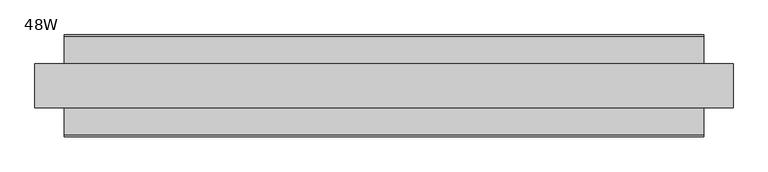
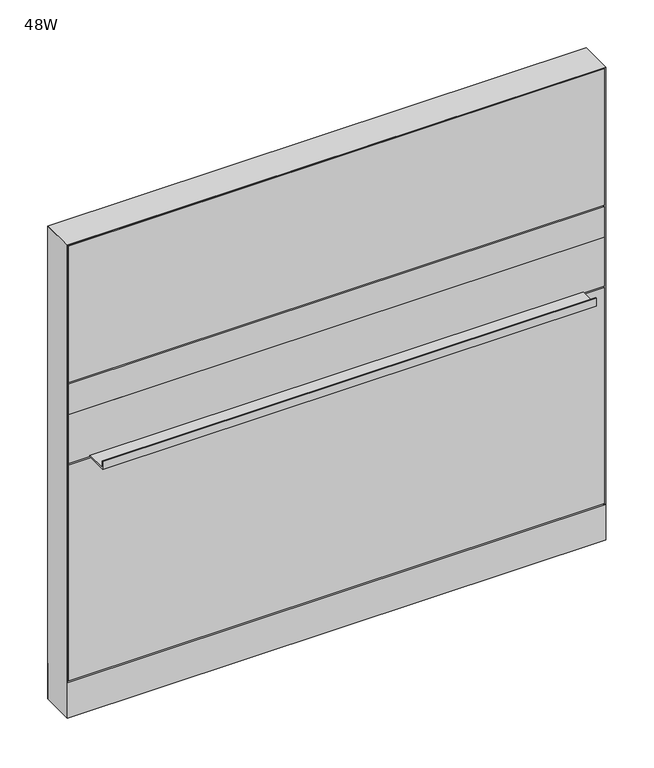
"""IFC4 building model written with IfcOpenShell, lengths in millimetres: furniture geometry, Steelcase - Montage - Frame - 45H - Enhanced Standard - Base and Desk-Height Cavity : 48W."""

import ifcopenshell
import ifcopenshell.guid

model = None  # the IFC model being written
_history = None  # IfcOwnerHistory: only IFC2X3 demands one
_inside = {}  # id of a spatial element -> (the spatial element, [elements in it])
_under = {}  # id of a project, library or spatial element -> (it, [spatial elements below it])
_declared = {}  # id of a project -> (the project, [libraries it declares])
_typed = {}  # id of a type object -> (the type object, [elements of that type])
_made_of = {}  # id of a material, layer set ... -> (it, [elements and type objects made of it])


def new_model(schema):
    """Start an empty IFC model of exactly this schema.

    Asked for "IFC4X3", IfcOpenShell would pick the latest addendum, in which some entities
    have other attributes; the version numbers below select the first issue.
    IFC2X3 requires an IfcOwnerHistory on every rooted entity: one is made here for all.
    """
    global model, _history
    if schema == "IFC4X3":
        model = ifcopenshell.file(schema_version=(4, 3, 0, 0))
    else:
        model = ifcopenshell.file(schema=schema)
    _inside.clear()
    _under.clear()
    _declared.clear()
    _typed.clear()
    _made_of.clear()
    _history = None
    if model.schema == "IFC2X3":
        org = make("IfcOrganization", Name="unknown")
        user = make(
            "IfcPersonAndOrganization",
            ThePerson=make("IfcPerson", FamilyName="unknown"),
            TheOrganization=org,
        )
        app = make(
            "IfcApplication",
            ApplicationDeveloper=org,
            Version="unknown",
            ApplicationFullName="unknown",
            ApplicationIdentifier="unknown",
        )
        _history = make(
            "IfcOwnerHistory",
            OwningUser=user,
            OwningApplication=app,
            ChangeAction="ADDED",
            CreationDate=0,
        )
    return model


def make(cls, **values):
    """One entity of the class cls with the attributes given. An attribute that is None is left unset."""
    return model.create_entity(
        cls, **{name: value for name, value in values.items() if value is not None}
    )


def rooted(cls, **values):
    """An entity with a GlobalId (a new one), such as an element, a storey or a relation."""
    return make(cls, GlobalId=ifcopenshell.guid.new(), OwnerHistory=_history, **values)


def si_unit(unit_type, name, prefix=None):
    """IfcSIUnit, for example si_unit("LENGTHUNIT", "METRE", prefix="MILLI")."""
    return make("IfcSIUnit", UnitType=unit_type, Prefix=prefix, Name=name)


def assignment(units):
    """IfcUnitAssignment: the units of a project."""
    return None if units is None else make("IfcUnitAssignment", Units=units)


def point(xyz):
    """IfcCartesianPoint."""
    return None if xyz is None else make("IfcCartesianPoint", Coordinates=xyz)


def direction(xyz):
    """IfcDirection."""
    return None if xyz is None else make("IfcDirection", DirectionRatios=xyz)


def frame(location, z_axis=None, x_axis=None):
    """IfcAxis2Placement3D, a coordinate frame: its origin and axes. An axis left out is left unset."""
    return make(
        "IfcAxis2Placement3D",
        Location=point(location),
        Axis=direction(z_axis),
        RefDirection=direction(x_axis),
    )


def frame_2d(location, x_axis=None):
    """IfcAxis2Placement2D, a coordinate frame in the plane: its origin and x axis."""
    return make(
        "IfcAxis2Placement2D", Location=point(location), RefDirection=direction(x_axis)
    )


def origin():
    """The frame at (0, 0, 0) with its axes left unset."""
    return frame((0.0, 0.0, 0.0))


def origin_with_axes():
    """The frame at (0, 0, 0) with the z axis (0, 0, 1) and the x axis (1, 0, 0) written out."""
    return frame((0.0, 0.0, 0.0), z_axis=(0.0, 0.0, 1.0), x_axis=(1.0, 0.0, 0.0))


def place(relative_to, where):
    """IfcLocalPlacement: puts the frame where relative to a parent placement (None: the world)."""
    return make(
        "IfcLocalPlacement", PlacementRelTo=relative_to, RelativePlacement=where
    )


def context(
    kind, dimensions, precision=None, world=None, true_north=None, identifier=None
):
    """IfcGeometricRepresentationContext, for example the 3D "Model" context."""
    return make(
        "IfcGeometricRepresentationContext",
        ContextIdentifier=identifier,
        ContextType=kind,
        CoordinateSpaceDimension=dimensions,
        Precision=precision,
        WorldCoordinateSystem=world,
        TrueNorth=true_north,
    )


def project(units=None, contexts=None):
    """IfcProject with its units and contexts."""
    return rooted(
        "IfcProject",
        Name="project",
        RepresentationContexts=contexts,
        UnitsInContext=assignment(units),
    )


def spatial(cls, under=None, at=None, **own):
    """A site, building, storey or space (cls), placed at a placement, below another one or the project."""
    s = rooted(cls, ObjectPlacement=at, **own)
    if under is not None:
        _under.setdefault(under.id(), (under, []))[1].append(s)
    return s


def polyline(points):
    """IfcPolyline through the points."""
    return make("IfcPolyline", Points=[point(p) for p in points])


def circle_curve(where, radius):
    """IfcCircle in the frame where."""
    return make("IfcCircle", Position=where, Radius=radius)


def trimmed(basis, trim1, trim2, sense, master):
    """IfcTrimmedCurve: the piece of a basis curve between two trims."""
    return make(
        "IfcTrimmedCurve",
        BasisCurve=basis,
        Trim1=trim1,
        Trim2=trim2,
        SenseAgreement=sense,
        MasterRepresentation=master,
    )


def segment(curve, same_sense, transition):
    """IfcCompositeCurveSegment."""
    return make(
        "IfcCompositeCurveSegment",
        Transition=transition,
        SameSense=same_sense,
        ParentCurve=curve,
    )


def composite_curve(segments, self_intersect=None):
    """IfcCompositeCurve: segments joined end to end."""
    return make("IfcCompositeCurve", Segments=segments, SelfIntersect=self_intersect)


def outline(outer, holes=None, kind="AREA"):
    """IfcArbitraryClosedProfileDef: a profile drawn as a closed curve; with holes, ...WithVoids."""
    if holes is None:
        return make("IfcArbitraryClosedProfileDef", ProfileType=kind, OuterCurve=outer)
    return make(
        "IfcArbitraryProfileDefWithVoids",
        ProfileType=kind,
        OuterCurve=outer,
        InnerCurves=holes,
    )


def extrude(swept, where, along, depth):
    """IfcExtrudedAreaSolid: the profile swept, set in the frame where, extruded along a direction by depth."""
    return make(
        "IfcExtrudedAreaSolid",
        SweptArea=swept,
        Position=where,
        ExtrudedDirection=direction(along),
        Depth=depth,
    )


def faces_of(points, faces, orient=None, outer=None):
    """IfcFace entities. A face is a list of loops; a loop is a list of indices into points, from 0.

    orient and outer hold one flag for each loop. By default every Orientation is true, the
    first loop of a face is its IfcFaceOuterBound and the others are IfcFaceBound.
    """
    made = []
    for i, loops in enumerate(faces):
        bounds = []
        for j, loop in enumerate(loops):
            is_outer = j == 0 if outer is None else outer[i][j]
            bounds.append(
                make(
                    "IfcFaceOuterBound" if is_outer else "IfcFaceBound",
                    Bound=make("IfcPolyLoop", Polygon=[points[k] for k in loop]),
                    Orientation=True if orient is None else orient[i][j],
                )
            )
        made.append(make("IfcFace", Bounds=bounds))
    return made


def faceted_brep(points, faces, orient=None, outer=None, voids=None):
    """IfcFacetedBrep: a solid bounded by flat faces; with voids (closed shells), ...WithVoids."""
    shared = [point(p) for p in points]
    hull = make("IfcClosedShell", CfsFaces=faces_of(shared, faces, orient, outer))
    if voids is None:
        return make("IfcFacetedBrep", Outer=hull)
    return make(
        "IfcFacetedBrepWithVoids",
        Outer=hull,
        Voids=[
            make(cls, CfsFaces=faces_of(shared, fs, o, b)) for cls, fs, o, b in voids
        ],
    )


def shape(context_of_items, identifier, shape_type, items):
    """IfcShapeRepresentation: the items that make up one representation, for example the "Body"."""
    return make(
        "IfcShapeRepresentation",
        ContextOfItems=context_of_items,
        RepresentationIdentifier=identifier,
        RepresentationType=shape_type,
        Items=items,
    )


def source(mapping_origin, context_of_items, identifier, shape_type, items):
    """IfcRepresentationMap: a shape defined once, which mapped items show again and again."""
    return make(
        "IfcRepresentationMap",
        MappingOrigin=mapping_origin,
        MappedRepresentation=shape(context_of_items, identifier, shape_type, items),
    )


def transform(
    local_origin,
    x_axis=None,
    y_axis=None,
    z_axis=None,
    scale=None,
    scale2=None,
    scale3=None,
    uniform=True,
):
    """IfcCartesianTransformationOperator3D, or its non-uniform kind. x_axis, y_axis, z_axis: its Axis1, 2, 3."""
    if uniform:
        return make(
            "IfcCartesianTransformationOperator3D",
            Axis1=direction(x_axis),
            Axis2=direction(y_axis),
            LocalOrigin=point(local_origin),
            Scale=scale,
            Axis3=direction(z_axis),
        )
    return make(
        "IfcCartesianTransformationOperator3DnonUniform",
        Axis1=direction(x_axis),
        Axis2=direction(y_axis),
        LocalOrigin=point(local_origin),
        Scale=scale,
        Axis3=direction(z_axis),
        Scale2=scale2,
        Scale3=scale3,
    )


def mapped(mapping_source, mapping_target):
    """IfcMappedItem: shows the shape of a source again, moved by a transform."""
    return make(
        "IfcMappedItem", MappingSource=mapping_source, MappingTarget=mapping_target
    )


def made_of(thing, what):
    """Note that an element or type object is made of a material, layer set ...; save() writes the relation."""
    if what is not None:
        _made_of.setdefault(what.id(), (what, []))[1].append(thing)
    return thing


def element(
    cls,
    number,
    at=None,
    inside=None,
    cuts=None,
    type_object=None,
    material=None,
    context=None,
    identifier="Body",
    shape_type=None,
    held_by="IfcProductDefinitionShape",
    body=None,
    shapes=None,
    **own,
):
    """One element of the class cls, such as IfcWall. Its Tag is "e" and its number.

    at: its placement. inside: the storey or other place that contains it. cuts: it is an
    opening in that element (IfcRelVoidsElement). A single representation is given by context,
    identifier, shape_type and body (its items); several are given by shapes. held_by: the class
    of the entity that holds the representations. save() writes the other relations.
    """
    e = rooted(cls, Tag="e%d" % number, ObjectPlacement=at, **own)
    if body is not None:
        shapes = [shape(context, identifier, shape_type, body)]
    if shapes is not None:
        e.Representation = make(held_by, Representations=shapes)
    if inside is not None:
        _inside.setdefault(inside.id(), (inside, []))[1].append(e)
    if cuts is not None:
        rooted(
            "IfcRelVoidsElement", RelatingBuildingElement=cuts, RelatedOpeningElement=e
        )
    if type_object is not None:
        _typed.setdefault(type_object.id(), (type_object, []))[1].append(e)
    return made_of(e, material)


def aggregate(whole, parts):
    """IfcRelAggregates: a whole, such as a stair, and the parts it consists of."""
    return rooted("IfcRelAggregates", RelatingObject=whole, RelatedObjects=parts)


def save(model, path):
    """Write the relations noted so far, then the file.

    IfcRelAggregates (storeys below a building ...), IfcRelContainedInSpatialStructure (elements
    in a storey), IfcRelDefinesByType, IfcRelAssociatesMaterial and IfcRelDeclares: one each for
    every whole, place, type object, material and project.
    """
    for whole, parts in _under.values():
        aggregate(whole, parts)
    for where, things in _inside.values():
        rooted(
            "IfcRelContainedInSpatialStructure",
            RelatedElements=things,
            RelatingStructure=where,
        )
    for kind, things in _typed.values():
        rooted("IfcRelDefinesByType", RelatedObjects=things, RelatingType=kind)
    for what, things in _made_of.values():
        rooted("IfcRelAssociatesMaterial", RelatedObjects=things, RelatingMaterial=what)
    for by, libraries in _declared.values():
        rooted("IfcRelDeclares", RelatingContext=by, RelatedDefinitions=libraries)
    model.write(path)


def furniture_48w_3bcd0fce(model_context):
    return source(origin(), model_context, "Body", "SolidModel", [
        extrude(outline(polyline([(3.175, 31.7500194), (3.175, 38.1000194), (1216.025, 38.1000194), (1216.025, 31.7500194), (3.175, 31.7500194)])), frame((0.0, 0.0, 92.075), z_axis=(0.0, 0.0, 1.0), x_axis=(1.0, 0.0, 0.0)), (0.0, 0.0, 1.0), 517.525),
        extrude(outline(polyline([(88.8960768, 612.775), (38.0960752, 612.775), (38.0960752, 615.315), (86.3560768, 615.315), (86.3560768, 631.825), (88.8960768, 631.825), (88.8960768, 612.775)])), frame((50.8000015, 0.0, 0.0), z_axis=(1.0, 0.0, 0.0), x_axis=(0.0, 1.0, 0.0)), (0.0, 0.0, 1.0), 1117.599997),
        extrude(outline(polyline([(3.175, 31.7460752), (3.175, 38.0960752), (1216.025, 38.0960752), (1216.025, 31.7460752), (3.175, 31.7460752)])), frame((0.0, 0.0, 730.2499516), z_axis=(0.0, 0.0, 1.0), x_axis=(1.0, 0.0, 0.0)), (0.0, 0.0, 1.0), 73.0250484),
        extrude(outline(polyline([(3.175, 31.7460752), (3.175, 38.0960752), (1216.025, 38.0960752), (1216.025, 31.7460752), (3.175, 31.7460752)])), frame((0.0, 0.0, 612.775), z_axis=(0.0, 0.0, 1.0), x_axis=(1.0, 0.0, 0.0)), (0.0, 0.0, 1.0), 117.4749516),
        extrude(outline(polyline([(3.175, 31.7500194), (3.175, 38.1000194), (1216.025, 38.1000194), (1216.025, 31.7500194), (3.175, 31.7500194)])), frame((0.0, 0.0, 806.45), z_axis=(0.0, 0.0, 1.0), x_axis=(1.0, 0.0, 0.0)), (0.0, 0.0, 1.0), 327.025),
        extrude(outline(polyline([(3.175, -31.7500194), (1216.025, -31.7500194), (1216.025, -38.1000194), (3.175, -38.1000194), (3.175, -31.7500194)])), frame((0.0, 0.0, 92.075), z_axis=(0.0, 0.0, 1.0), x_axis=(1.0, 0.0, 0.0)), (0.0, 0.0, 1.0), 517.525),
        extrude(outline(polyline([(-88.8960768, 612.775), (-88.8960768, 631.825), (-86.3560768, 631.825), (-86.3560768, 615.315), (-38.0960752, 615.315), (-38.0960752, 612.775), (-88.8960768, 612.775)])), frame((50.8000015, 0.0, 0.0), z_axis=(1.0, 0.0, 0.0), x_axis=(0.0, 1.0, 0.0)), (0.0, 0.0, 1.0), 1117.599997),
        extrude(outline(polyline([(3.175, -31.7460752), (1216.025, -31.7460752), (1216.025, -38.0960752), (3.175, -38.0960752), (3.175, -31.7460752)])), frame((0.0, 0.0, 730.2499516), z_axis=(0.0, 0.0, 1.0), x_axis=(1.0, 0.0, 0.0)), (0.0, 0.0, 1.0), 73.0250484),
        extrude(outline(polyline([(3.175, -31.7460752), (1216.025, -31.7460752), (1216.025, -38.0960752), (3.175, -38.0960752), (3.175, -31.7460752)])), frame((0.0, 0.0, 612.775), z_axis=(0.0, 0.0, 1.0), x_axis=(1.0, 0.0, 0.0)), (0.0, 0.0, 1.0), 117.4749516),
        extrude(outline(polyline([(3.175, -31.7500194), (1216.025, -31.7500194), (1216.025, -38.1000194), (3.175, -38.1000194), (3.175, -31.7500194)])), frame((0.0, 0.0, 806.45), z_axis=(0.0, 0.0, 1.0), x_axis=(1.0, 0.0, 0.0)), (0.0, 0.0, 1.0), 327.025),
        extrude(outline(polyline([(1212.8499879, 31.749953), (1212.8499879, -31.7499985), (6.35, -31.7499985), (6.35, 31.749953), (1212.8499879, 31.749953)])), frame((0.0, 0.0, 809.6250242), z_axis=(0.0, 0.0, 1.0), x_axis=(1.0, 0.0, 0.0)), (0.0, 0.0, 1.0), 320.6749273),
        extrude(outline(polyline([(1212.8499879, 31.749953), (1212.8499879, -31.7499985), (6.35, -31.7499985), (6.35, 31.749953), (1212.8499879, 31.749953)])), frame((0.0, 0.0, 619.125), z_axis=(0.0, 0.0, 1.0), x_axis=(1.0, 0.0, 0.0)), (0.0, 0.0, 1.0), 177.8000242),
        extrude(outline(polyline([(1212.8499879, 31.7500016), (1212.8499879, -31.7499985), (6.35, -31.7499985), (6.35, 31.7500016), (1212.8499879, 31.7500016)])), frame((0.0, 0.0, 88.899997), z_axis=(0.0, 0.0, 1.0), x_axis=(1.0, 0.0, 0.0)), (0.0, 0.0, 1.0), 517.525003),
        extrude(outline(polyline([(6.350003, -31.7499985), (1212.849997, -31.7499985), (1219.2, -38.1000015), (0.0, -38.1000015), (6.350003, -31.7499985)])), frame((0.0, 0.0, 4.064), z_axis=(0.0, 0.0, 1.0), x_axis=(1.0, 0.0, 0.0)), (0.0, 0.0, 1.0), 84.835997),
        extrude(outline(polyline([(6.3500002, 31.7500017), (0.0, 38.1000015), (1219.2, 38.1000015), (1212.8500002, 31.7500017), (6.3500002, 31.7500017)])), frame((0.0, 0.0, 4.064), z_axis=(0.0, 0.0, 1.0), x_axis=(1.0, 0.0, 0.0)), (0.0, 0.0, 1.0), 84.835997),
        faceted_brep([(1219.2, -38.1000015, 1136.65), (0.0, -38.1000015, 1136.65), (6.3500484, -31.749953, 1130.2999516), (1212.8499516, -31.749953, 1130.2999516), (6.3500484, 31.749953, 1130.2999516), (1212.8499516, 31.749953, 1130.2999516), (0.0, 38.1000015, 1136.65), (1219.2, 38.1000015, 1136.65)], [[[0, 1, 2, 3]], [[3, 2, 4, 5]], [[6, 7, 5, 4]], [[1, 0, 7, 6]], [[2, 1, 6, 4]], [[0, 3, 5, 7]]]),
        extrude(outline(composite_curve([segment(trimmed(circle_curve(frame_2d((44.45, 0.0)), 15.24), [point((29.21, 0.0))], [point((59.69, 0.0))], False, "CARTESIAN"), True, "CONTINUOUS"), segment(trimmed(circle_curve(frame_2d((44.45, 0.0)), 15.24), [point((59.69, 0.0))], [point((29.21, 0.0))], False, "CARTESIAN"), True, "CONTINUOUS")], self_intersect=False)), origin_with_axes(), (0.0, 0.0, 1.0), 4.064),
        extrude(outline(composite_curve([segment(trimmed(circle_curve(frame_2d((1174.75, 0.0)), 15.24), [point((1159.51, 0.0))], [point((1189.99, 0.0))], False, "CARTESIAN"), True, "CONTINUOUS"), segment(trimmed(circle_curve(frame_2d((1174.75, 0.0)), 15.24), [point((1189.99, 0.0))], [point((1159.51, 0.0))], False, "CARTESIAN"), True, "CONTINUOUS")], self_intersect=False)), origin_with_axes(), (0.0, 0.0, 1.0), 4.064),
        faceted_brep([(1219.2, -38.1000106, 4.064), (1219.2, 38.1000015, 4.064), (1219.2, 38.1000015, 1136.65), (1219.2, -38.1000106, 1136.6499637), (0.0, 38.1000015, 4.064), (0.0, -38.1000015, 4.064), (0.0, -38.1000015, 1136.65), (0.0, 38.1000015, 1136.65), (1212.8499879, 31.7500017, 606.425), (6.35, 31.7500017, 606.425), (6.3499998, 31.7500017, 619.125), (1212.8499879, 31.7500017, 619.125), (6.35, -31.7499985, 619.125), (1212.8499879, -31.7499985, 619.125), (6.350003, -31.7499985, 606.425), (1212.8499879, -31.7499985, 606.425), (1212.8499879, 31.7500017, 796.9250242), (6.35, 31.7500017, 796.9250242), (6.3499998, 31.7500017, 809.6250242), (1212.8499879, 31.7500017, 809.6250242), (6.35, -31.7499985, 809.6250242), (1212.8499879, -31.7499985, 809.6250242), (6.350003, -31.7499985, 796.9250242), (1212.8499879, -31.7499985, 796.9250242), (6.35, 31.7500015, 4.064), (6.35, -31.7500015, 4.064), (1212.8499879, 31.7499894, 4.064), (1212.8499879, -31.7499985, 4.064), (6.35, 31.7500015, 1130.3), (6.35, -31.7500015, 1130.3), (1212.8499879, -31.7499985, 1130.2999516), (1212.8499879, 31.7499896, 1130.2999516)], [[[0, 1, 2, 3]], [[4, 5, 6, 7]], [[8, 9, 10, 11]], [[11, 10, 12, 13]], [[13, 12, 14, 15]], [[9, 8, 15, 14]], [[16, 17, 18, 19]], [[19, 18, 20, 21]], [[21, 20, 22, 23]], [[17, 16, 23, 22]], [[24, 25, 5, 4]], [[26, 1, 0, 27]], [[24, 4, 7, 28, 18, 17, 10, 9]], [[5, 25, 14, 12, 22, 20, 29, 6]], [[20, 18, 28, 29]], [[25, 24, 9, 14]], [[10, 17, 22, 12]], [[19, 21, 30, 31]], [[26, 27, 15, 8]], [[16, 11, 13, 23]], [[27, 0, 3, 30, 21, 23, 13, 15]], [[1, 26, 8, 11, 16, 19, 31, 2]], [[7, 6, 29, 28]], [[3, 2, 31, 30]]]),
    ])


if __name__ == "__main__":
    model = new_model("IFC4")
    model_context = context("Model", 3, world=origin())
    ifc_project = project(units=[si_unit("LENGTHUNIT", "METRE", prefix="MILLI")], contexts=[model_context])
    site = spatial("IfcSite", under=ifc_project)
    building = spatial("IfcBuilding", under=site)
    placement = place(None, origin())
    furniture_48w_shape = furniture_48w_3bcd0fce(model_context)
    element("IfcFurniture", 1, ObjectType="Steelcase - Montage - Frame - 45H - Enhanced Standard - Base and Desk-Height Cavity : 48W", at=placement, inside=building, context=model_context, shape_type="MappedRepresentation", body=[
        mapped(furniture_48w_shape, transform((0.0, 0.0, 0.0), x_axis=(1.0, 0.0, 0.0), y_axis=(0.0, 1.0, 0.0), z_axis=(0.0, 0.0, 1.0))),
    ])
    save(model, "model.ifc")
